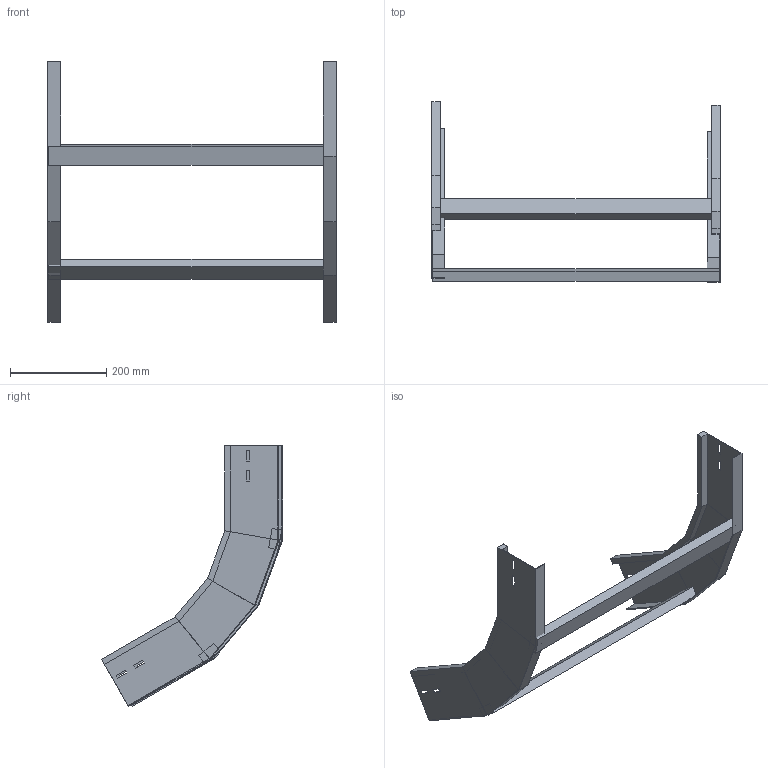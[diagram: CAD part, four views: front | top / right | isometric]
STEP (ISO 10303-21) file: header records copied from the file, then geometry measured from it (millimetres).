
FILE_DESCRIPTION (( 'STEP AP214' ), '1' );
FILE_NAME ('A2X40B3J600XX.step', '2025-04-02T10:02:08', ( '' ), ( '' ), 'SwSTEP 2.0', 'SolidWorks 2023', '' );
FILE_SCHEMA (( 'AUTOMOTIVE_DESIGN' ));
Length unit declared in the file: millimetre
Products named in the file (3): LONGH.SALITA_60°_H112.5_R300; A2X40B3J600XX; TRAVERSINO_600
Assembly tree (4 placements, depth 2):
  A2X40B3J600XX
    LONGH.SALITA_60°_H112.5_R300  x2
    TRAVERSINO_600  x2
Bounding box: 600 x 376.69 x 542.06 mm (x, y, z)
Volume: 1530826.1 mm3; surface area: 538057.4 mm2
Topology: 4 solids, 4 shells, 112 faces, 264 edges, 160 vertices
Faces by surface type: plane 112
Entity records: 1664 total; most frequent: CARTESIAN_POINT 275, ORIENTED_EDGE 264, DIRECTION 258, VECTOR 132, LINE 132, EDGE_CURVE 132, VERTEX_POINT 80, EDGE_LOOP 64
